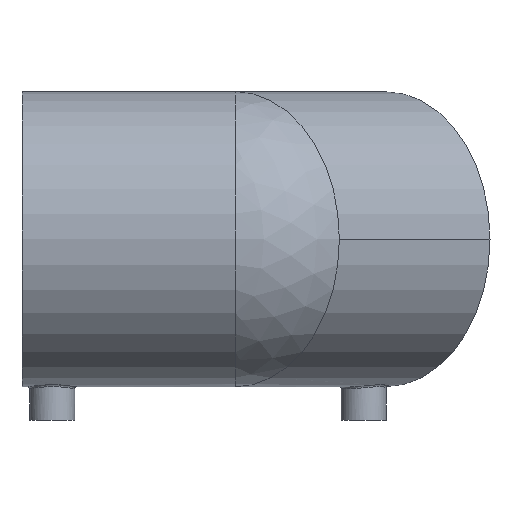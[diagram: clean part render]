
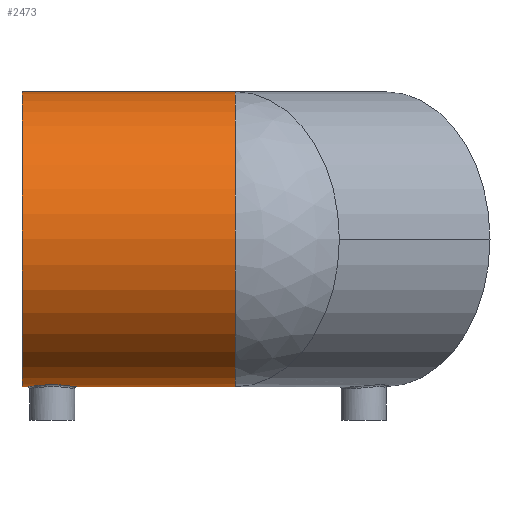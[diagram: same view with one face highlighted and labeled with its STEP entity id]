
A CAD part, front view. The second image highlights one B-rep face of the part: STEP entity #2473.
In plain terms, the highlighted cylindrical face has radius 68.5 mm (diameter 137 mm), a partial arc.
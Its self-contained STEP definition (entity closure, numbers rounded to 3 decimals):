
#87 = EDGE_LOOP ( 'NONE', ( #2258, #281, #1958, #2003, #1653, #1632, #275 ) ) ;
#106 = EDGE_CURVE ( 'NONE', #2906, #2194, #1348, .T. ) ;
#118 = EDGE_CURVE ( 'NONE', #1963, #2363, #1262, .T. ) ;
#126 = EDGE_CURVE ( 'NONE', #3294, #1963, #1362, .T. ) ;
#262 = FACE_OUTER_BOUND ( 'NONE', #87, .T. ) ;
#275 = ORIENTED_EDGE ( 'NONE', *, *, #2946, .F. ) ;
#281 = ORIENTED_EDGE ( 'NONE', *, *, #365, .T. ) ;
#327 = CARTESIAN_POINT ( 'NONE',  ( -99., 0., -68.5 ) ) ;
#345 = CARTESIAN_POINT ( 'NONE',  ( -73.913, -3.03, -68.434 ) ) ;
#355 = CARTESIAN_POINT ( 'NONE',  ( -74.012, -3.362, -68.418 ) ) ;
#365 = EDGE_CURVE ( 'NONE', #1989, #3294, #1153, .T. ) ;
#367 = CARTESIAN_POINT ( 'NONE',  ( -74.371, -4.342, -68.363 ) ) ;
#371 = B_SPLINE_CURVE_WITH_KNOTS ( 'NONE', 3,
 ( #3057, #1773, #2131, #1558, #2103, #1354 ),
 .UNSPECIFIED., .F., .F.,
 ( 4, 2, 4 ),
 ( 0.033, 0.035, 0.036 ),
 .UNSPECIFIED. ) ;
#550 = CARTESIAN_POINT ( 'NONE',  ( -74.802, -5.284, -68.299 ) ) ;
#551 = VECTOR ( 'NONE', #2289, 1000. ) ;
#564 = CARTESIAN_POINT ( 'NONE',  ( -74.241, -4.018, -68.383 ) ) ;
#576 = CARTESIAN_POINT ( 'NONE',  ( -75.144, -5.88, -68.25 ) ) ;
#578 = AXIS2_PLACEMENT_3D ( 'NONE', #2870, #2879, #3096 ) ;
#598 = DIRECTION ( 'NONE',  ( 1., 0., 0. ) ) ;
#614 = LINE ( 'NONE', #2692, #551 ) ;
#619 = CARTESIAN_POINT ( 'NONE',  ( -75.933, -7.006, -68.143 ) ) ;
#647 = CARTESIAN_POINT ( 'NONE',  ( -76.387, -7.541, -68.085 ) ) ;
#661 = CARTESIAN_POINT ( 'NONE',  ( -77.368, -8.506, -67.972 ) ) ;
#853 = CARTESIAN_POINT ( 'NONE',  ( -77.898, -8.941, -67.915 ) ) ;
#864 = CARTESIAN_POINT ( 'NONE',  ( -78.754, -9.523, -67.835 ) ) ;
#894 = CARTESIAN_POINT ( 'NONE',  ( -79.051, -9.706, -67.809 ) ) ;
#903 = DIRECTION ( 'NONE',  ( 0., 0., -1. ) ) ;
#923 = CARTESIAN_POINT ( 'NONE',  ( -79.966, -10.197, -67.737 ) ) ;
#936 = CARTESIAN_POINT ( 'NONE',  ( -80.91, -10.615, -67.673 ) ) ;
#952 = CARTESIAN_POINT ( 'NONE',  ( -79.657, -10.043, -67.76 ) ) ;
#993 = CYLINDRICAL_SURFACE ( 'NONE', #1474, 68.5 ) ;
#1116 = CARTESIAN_POINT ( 'NONE',  ( -99., 0., 0. ) ) ;
#1153 = CIRCLE ( 'NONE', #2664, 68.5 ) ;
#1162 = CARTESIAN_POINT ( 'NONE',  ( -81.561, -10.837, -67.637 ) ) ;
#1181 = CARTESIAN_POINT ( 'NONE',  ( -82.571, -11.084, -67.597 ) ) ;
#1190 = CARTESIAN_POINT ( 'NONE',  ( -82.915, -11.152, -67.586 ) ) ;
#1202 = CARTESIAN_POINT ( 'NONE',  ( -96.5, 0., -68.5 ) ) ;
#1204 = CARTESIAN_POINT ( 'NONE',  ( -83.6, -11.255, -67.569 ) ) ;
#1217 = CARTESIAN_POINT ( 'NONE',  ( -99., 0., 68.5 ) ) ;
#1218 = CARTESIAN_POINT ( 'NONE',  ( -83.943, -11.292, -67.563 ) ) ;
#1228 = CARTESIAN_POINT ( 'NONE',  ( -84.974, -11.355, -67.552 ) ) ;
#1262 = B_SPLINE_CURVE_WITH_KNOTS ( 'NONE', 3,
 ( #2943, #2671, #3107, #1971, #2499, #2515, #2523, #2535, #1752, #1948, #1937, #1737, #1722, #1710, #1702, #1685, #1674, #1663, #1476, #1452, #1433, #1423, #1415, #1402, #1228, #1218, #1204, #1190, #1181, #1162, #936, #923, #952, #894, #864, #853, #661, #647, #619, #576, #550, #367, #564, #355, #345, #3162 ),
 .UNSPECIFIED., .F., .F.,
 ( 4, 2, 2, 2, 2, 2, 2, 2, 2, 2, 2, 2, 2, 2, 2, 2, 2, 2, 2, 2, 2, 2, 4 ),
 ( 0., 0.002, 0.004, 0.005, 0.006, 0.008, 0.009, 0.01, 0.013, 0.015, 0.016, 0.017, 0.019, 0.02, 0.021, 0.023, 0.024, 0.025, 0.027, 0.029, 0.031, 0.032, 0.033 ),
 .UNSPECIFIED. ) ;
#1343 = VECTOR ( 'NONE', #2505, 1000. ) ;
#1348 = LINE ( 'NONE', #327, #1343 ) ;
#1354 = CARTESIAN_POINT ( 'NONE',  ( -73.5, 0., -68.5 ) ) ;
#1360 = VECTOR ( 'NONE', #2680, 1000. ) ;
#1362 = LINE ( 'NONE', #2894, #1360 ) ;
#1402 = CARTESIAN_POINT ( 'NONE',  ( -85.663, -11.336, -67.555 ) ) ;
#1415 = CARTESIAN_POINT ( 'NONE',  ( -86.701, -11.215, -67.576 ) ) ;
#1423 = CARTESIAN_POINT ( 'NONE',  ( -87.045, -11.159, -67.585 ) ) ;
#1433 = CARTESIAN_POINT ( 'NONE',  ( -87.721, -11.018, -67.608 ) ) ;
#1452 = CARTESIAN_POINT ( 'NONE',  ( -88.054, -10.933, -67.622 ) ) ;
#1474 = AXIS2_PLACEMENT_3D ( 'NONE', #1116, #598, #903 ) ;
#1476 = CARTESIAN_POINT ( 'NONE',  ( -89.041, -10.633, -67.67 ) ) ;
#1558 = CARTESIAN_POINT ( 'NONE',  ( -73.527, -0.902, -68.496 ) ) ;
#1631 = CARTESIAN_POINT ( 'NONE',  ( -99., 0., -68.5 ) ) ;
#1632 = ORIENTED_EDGE ( 'NONE', *, *, #106, .T. ) ;
#1653 = ORIENTED_EDGE ( 'NONE', *, *, #2784, .T. ) ;
#1663 = CARTESIAN_POINT ( 'NONE',  ( -89.682, -10.375, -67.71 ) ) ;
#1674 = CARTESIAN_POINT ( 'NONE',  ( -90.92, -9.742, -67.805 ) ) ;
#1685 = CARTESIAN_POINT ( 'NONE',  ( -91.502, -9.374, -67.857 ) ) ;
#1702 = CARTESIAN_POINT ( 'NONE',  ( -92.319, -8.749, -67.939 ) ) ;
#1710 = CARTESIAN_POINT ( 'NONE',  ( -92.583, -8.528, -67.967 ) ) ;
#1722 = CARTESIAN_POINT ( 'NONE',  ( -93.091, -8.062, -68.024 ) ) ;
#1737 = CARTESIAN_POINT ( 'NONE',  ( -93.337, -7.814, -68.053 ) ) ;
#1752 = CARTESIAN_POINT ( 'NONE',  ( -94.992, -5.621, -68.27 ) ) ;
#1773 = CARTESIAN_POINT ( 'NONE',  ( -73.72, -2.254, -68.464 ) ) ;
#1798 = EDGE_CURVE ( 'NONE', #1989, #1802, #614, .T. ) ;
#1802 = VERTEX_POINT ( 'NONE', #2754 ) ;
#1906 = CARTESIAN_POINT ( 'NONE',  ( -73.5, 0., -68.5 ) ) ;
#1937 = CARTESIAN_POINT ( 'NONE',  ( -94.035, -7.046, -68.139 ) ) ;
#1948 = CARTESIAN_POINT ( 'NONE',  ( -94.449, -6.497, -68.194 ) ) ;
#1958 = ORIENTED_EDGE ( 'NONE', *, *, #126, .T. ) ;
#1963 = VERTEX_POINT ( 'NONE', #1202 ) ;
#1971 = CARTESIAN_POINT ( 'NONE',  ( -96.177, -2.753, -68.448 ) ) ;
#1989 = VERTEX_POINT ( 'NONE', #1217 ) ;
#2003 = ORIENTED_EDGE ( 'NONE', *, *, #118, .T. ) ;
#2103 = CARTESIAN_POINT ( 'NONE',  ( -73.5, -0.45, -68.5 ) ) ;
#2131 = CARTESIAN_POINT ( 'NONE',  ( -73.638, -1.808, -68.478 ) ) ;
#2194 = VERTEX_POINT ( 'NONE', #2224 ) ;
#2224 = CARTESIAN_POINT ( 'NONE',  ( 0., 0., -68.5 ) ) ;
#2258 = ORIENTED_EDGE ( 'NONE', *, *, #1798, .F. ) ;
#2289 = DIRECTION ( 'NONE',  ( 1., 0., 0. ) ) ;
#2363 = VERTEX_POINT ( 'NONE', #3151 ) ;
#2402 = CIRCLE ( 'NONE', #578, 68.5 ) ;
#2473 = ADVANCED_FACE ( 'NONE', ( #262 ), #993, .T. ) ;
#2499 = CARTESIAN_POINT ( 'NONE',  ( -95.988, -3.414, -68.418 ) ) ;
#2505 = DIRECTION ( 'NONE',  ( 1., 0., 0. ) ) ;
#2515 = CARTESIAN_POINT ( 'NONE',  ( -95.612, -4.38, -68.361 ) ) ;
#2523 = CARTESIAN_POINT ( 'NONE',  ( -95.471, -4.7, -68.339 ) ) ;
#2535 = CARTESIAN_POINT ( 'NONE',  ( -95.161, -5.32, -68.294 ) ) ;
#2664 = AXIS2_PLACEMENT_3D ( 'NONE', #2996, #2999, #2952 ) ;
#2671 = CARTESIAN_POINT ( 'NONE',  ( -96.5, -0.698, -68.5 ) ) ;
#2680 = DIRECTION ( 'NONE',  ( 1., 0., 0. ) ) ;
#2692 = CARTESIAN_POINT ( 'NONE',  ( -99., 0., 68.5 ) ) ;
#2754 = CARTESIAN_POINT ( 'NONE',  ( 0., 0., 68.5 ) ) ;
#2784 = EDGE_CURVE ( 'NONE', #2363, #2906, #371, .T. ) ;
#2870 = CARTESIAN_POINT ( 'NONE',  ( 0., 0., 0. ) ) ;
#2879 = DIRECTION ( 'NONE',  ( 1., 0., 0. ) ) ;
#2894 = CARTESIAN_POINT ( 'NONE',  ( -99., 0., -68.5 ) ) ;
#2906 = VERTEX_POINT ( 'NONE', #1906 ) ;
#2943 = CARTESIAN_POINT ( 'NONE',  ( -96.5, 0., -68.5 ) ) ;
#2946 = EDGE_CURVE ( 'NONE', #1802, #2194, #2402, .T. ) ;
#2952 = DIRECTION ( 'NONE',  ( 0., 0., -1. ) ) ;
#2996 = CARTESIAN_POINT ( 'NONE',  ( -99., 0., 0. ) ) ;
#2999 = DIRECTION ( 'NONE',  ( 1., 0., 0. ) ) ;
#3057 = CARTESIAN_POINT ( 'NONE',  ( -73.829, -2.694, -68.447 ) ) ;
#3096 = DIRECTION ( 'NONE',  ( 0., 0., -1. ) ) ;
#3107 = CARTESIAN_POINT ( 'NONE',  ( -96.434, -1.397, -68.489 ) ) ;
#3151 = CARTESIAN_POINT ( 'NONE',  ( -73.829, -2.694, -68.447 ) ) ;
#3162 = CARTESIAN_POINT ( 'NONE',  ( -73.829, -2.694, -68.447 ) ) ;
#3294 = VERTEX_POINT ( 'NONE', #1631 ) ;
